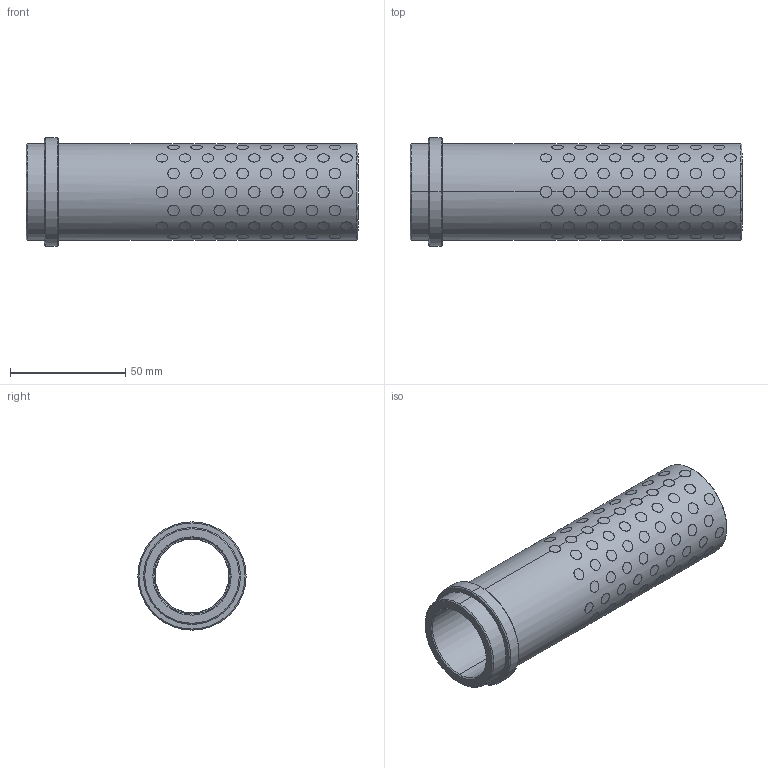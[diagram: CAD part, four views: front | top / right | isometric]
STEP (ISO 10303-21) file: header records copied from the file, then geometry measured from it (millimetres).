
FILE_DESCRIPTION((''),'2;1');
FILE_NAME('G31232136','2017-12-30T',('MANU'),(''),'PRO/ENGINEER BY PARAMETRIC TECHNOLOGY CORPORATION, 2012130','PRO/ENGINEER BY PARAMETRIC TECHNOLOGY CORPORATION, 2012130','');
FILE_SCHEMA(('CONFIG_CONTROL_DESIGN'));
Products named in the file (1): G31232136
Bounding box: 144 x 47 x 47 mm (x, y, z)
Volume: 82670.1 mm3; surface area: 56626 mm2
Topology: 137 solids, 137 shells, 843 faces, 1794 edges, 1192 vertices
Faces by surface type: cylinder 826, cone 12, plane 5
Entity records: 43264 total; most frequent: CARTESIAN_POINT 26895, ORIENTED_EDGE 3588, DIRECTION 2352, EDGE_CURVE 1794, VERTEX_POINT 1192, B_SPLINE_CURVE_WITH_KNOTS 1160, EDGE_LOOP 1084, AXIS2_PLACEMENT_3D 875
